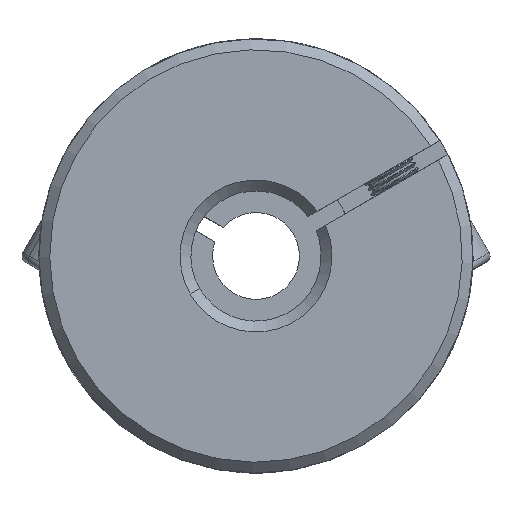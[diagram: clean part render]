
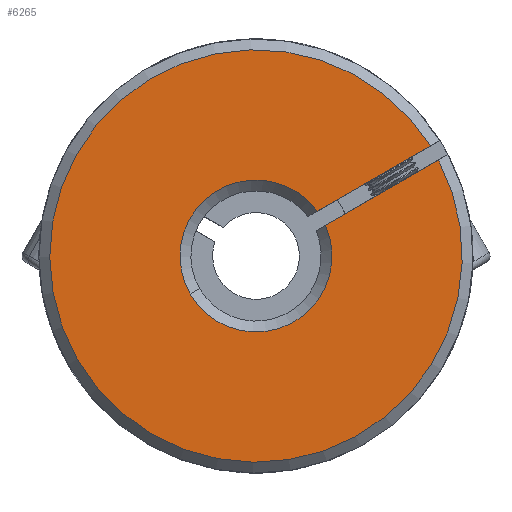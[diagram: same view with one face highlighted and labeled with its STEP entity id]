
A CAD part, front view. The second image highlights one B-rep face of the part: STEP entity #6265.
In plain terms, the highlighted planar face has unit normal (0, -1, 0).
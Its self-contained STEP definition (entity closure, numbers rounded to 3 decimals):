
#460 = DIRECTION ( 'NONE',  ( 0., 1., 0. ) ) ;
#740 = AXIS2_PLACEMENT_3D ( 'NONE', #7858, #6994, #6403 ) ;
#850 = LINE ( 'NONE', #12261, #9789 ) ;
#1551 = DIRECTION ( 'NONE',  ( -0.866, 0., -0.5 ) ) ;
#1605 = CIRCLE ( 'NONE', #10609, 19. ) ;
#1769 = DIRECTION ( 'NONE',  ( 0.866, 0., 0.5 ) ) ;
#1905 = CARTESIAN_POINT ( 'NONE',  ( 14.616, -31.239, 50.147 ) ) ;
#2077 = CARTESIAN_POINT ( 'NONE',  ( -1.447, -31.239, 40. ) ) ;
#2082 = ORIENTED_EDGE ( 'NONE', *, *, #4518, .T. ) ;
#2569 = CARTESIAN_POINT ( 'NONE',  ( 4.954, -31.239, 42.832 ) ) ;
#2666 = ORIENTED_EDGE ( 'NONE', *, *, #13412, .F. ) ;
#3395 = ORIENTED_EDGE ( 'NONE', *, *, #12621, .T. ) ;
#3878 = AXIS2_PLACEMENT_3D ( 'NONE', #13342, #460, #12156 ) ;
#4518 = EDGE_CURVE ( 'NONE', #6527, #12449, #1605, .T. ) ;
#4625 = AXIS2_PLACEMENT_3D ( 'NONE', #2077, #9574, #7576 ) ;
#5148 = DIRECTION ( 'NONE',  ( 0., -1., 0. ) ) ;
#5395 = CARTESIAN_POINT ( 'NONE',  ( -7.508, -31.239, 36.498 ) ) ;
#6154 = CARTESIAN_POINT ( 'NONE',  ( 15.367, -31.239, 48.848 ) ) ;
#6265 = ADVANCED_FACE ( 'NONE', ( #13676 ), #12208, .F. ) ;
#6403 = DIRECTION ( 'NONE',  ( 0.5, 0., -0.866 ) ) ;
#6527 = VERTEX_POINT ( 'NONE', #1905 ) ;
#6839 = LINE ( 'NONE', #9464, #9180 ) ;
#6994 = DIRECTION ( 'NONE',  ( 0., 1., 0. ) ) ;
#7576 = DIRECTION ( 'NONE',  ( 0.5, 0., -0.866 ) ) ;
#7858 = CARTESIAN_POINT ( 'NONE',  ( -1.447, -31.239, 40. ) ) ;
#7885 = EDGE_CURVE ( 'NONE', #6527, #10012, #850, .T. ) ;
#8400 = ORIENTED_EDGE ( 'NONE', *, *, #7885, .F. ) ;
#9180 = VECTOR ( 'NONE', #1769, 1000. ) ;
#9464 = CARTESIAN_POINT ( 'NONE',  ( 4.083, -31.239, 42.329 ) ) ;
#9502 = DIRECTION ( 'NONE',  ( 0.5, 0., -0.866 ) ) ;
#9574 = DIRECTION ( 'NONE',  ( 0., 1., 0. ) ) ;
#9789 = VECTOR ( 'NONE', #1551, 1000. ) ;
#10012 = VERTEX_POINT ( 'NONE', #13864 ) ;
#10193 = VERTEX_POINT ( 'NONE', #5395 ) ;
#10609 = AXIS2_PLACEMENT_3D ( 'NONE', #13868, #5148, #9502 ) ;
#11249 = ORIENTED_EDGE ( 'NONE', *, *, #12682, .T. ) ;
#11513 = CIRCLE ( 'NONE', #4625, 7. ) ;
#11757 = VERTEX_POINT ( 'NONE', #2569 ) ;
#12156 = DIRECTION ( 'NONE',  ( 0.5, 0., -0.866 ) ) ;
#12197 = CIRCLE ( 'NONE', #740, 7. ) ;
#12208 = PLANE ( 'NONE',  #3878 ) ;
#12261 = CARTESIAN_POINT ( 'NONE',  ( 3.332, -31.239, 43.628 ) ) ;
#12449 = VERTEX_POINT ( 'NONE', #6154 ) ;
#12562 = EDGE_LOOP ( 'NONE', ( #2666, #3395, #11249, #8400, #2082 ) ) ;
#12621 = EDGE_CURVE ( 'NONE', #11757, #10193, #11513, .T. ) ;
#12682 = EDGE_CURVE ( 'NONE', #10193, #10012, #12197, .T. ) ;
#13342 = CARTESIAN_POINT ( 'NONE',  ( 52.98, -31.239, 45.743 ) ) ;
#13412 = EDGE_CURVE ( 'NONE', #11757, #12449, #6839, .T. ) ;
#13676 = FACE_OUTER_BOUND ( 'NONE', #12562, .T. ) ;
#13864 = CARTESIAN_POINT ( 'NONE',  ( 4.204, -31.239, 44.131 ) ) ;
#13868 = CARTESIAN_POINT ( 'NONE',  ( -1.447, -31.239, 40. ) ) ;
